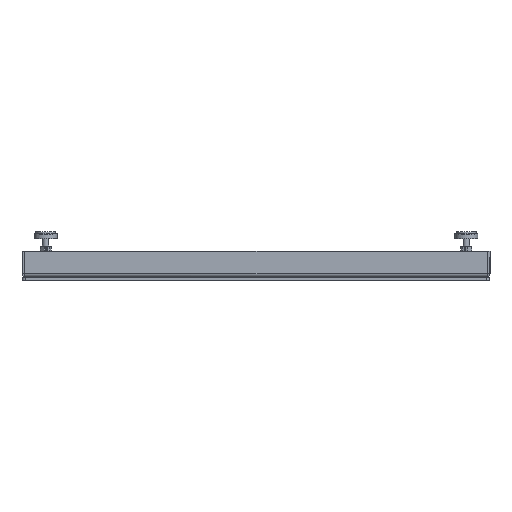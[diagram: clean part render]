
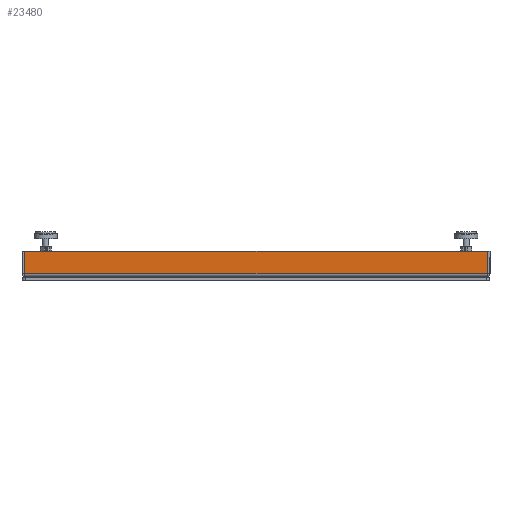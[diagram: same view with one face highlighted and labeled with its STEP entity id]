
A CAD part, left-side view. The second image highlights one B-rep face of the part: STEP entity #23480.
In plain terms, the highlighted planar face has unit normal (-1, 0, 0).
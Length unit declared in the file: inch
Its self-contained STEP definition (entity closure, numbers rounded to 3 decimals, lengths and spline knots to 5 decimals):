
#23 = DIRECTION ( 'NONE',  ( 0., -1., 0. ) ) ;
#52 = CARTESIAN_POINT ( 'NONE',  ( -18., -17.80493, 0.263 ) ) ;
#1763 = DIRECTION ( 'NONE',  ( 0., 1., 0. ) ) ;
#6454 = VECTOR ( 'NONE', #23, 39.37008 ) ;
#7763 = LINE ( 'NONE', #43164, #6454 ) ;
#9864 = CARTESIAN_POINT ( 'NONE',  ( -18., 0., 0. ) ) ;
#10919 = ORIENTED_EDGE ( 'NONE', *, *, #47439, .F. ) ;
#12058 = CARTESIAN_POINT ( 'NONE',  ( -18., 17.80493, 0.263 ) ) ;
#14228 = DIRECTION ( 'NONE',  ( 1., 0., 0. ) ) ;
#14292 = EDGE_CURVE ( 'NONE', #17503, #42101, #7763, .T. ) ;
#14500 = FACE_OUTER_BOUND ( 'NONE', #32746, .T. ) ;
#17503 = VERTEX_POINT ( 'NONE', #26383 ) ;
#18677 = EDGE_CURVE ( 'NONE', #33514, #42101, #48774, .T. ) ;
#19969 = LINE ( 'NONE', #44078, #20152 ) ;
#20152 = VECTOR ( 'NONE', #24114, 39.37008 ) ;
#21277 = DIRECTION ( 'NONE',  ( 0., 0., 1. ) ) ;
#21483 = CARTESIAN_POINT ( 'NONE',  ( -18., -17.80493, 2. ) ) ;
#22729 = PLANE ( 'NONE',  #39715 ) ;
#23480 = ADVANCED_FACE ( 'NONE', ( #14500 ), #22729, .F. ) ;
#24114 = DIRECTION ( 'NONE',  ( 0., 0., 1. ) ) ;
#25454 = LINE ( 'NONE', #37151, #28260 ) ;
#26383 = CARTESIAN_POINT ( 'NONE',  ( -18., 17.80493, 2. ) ) ;
#28260 = VECTOR ( 'NONE', #1763, 39.37008 ) ;
#29352 = ORIENTED_EDGE ( 'NONE', *, *, #18677, .T. ) ;
#32746 = EDGE_LOOP ( 'NONE', ( #10919, #29352, #44896, #50362 ) ) ;
#33236 = CARTESIAN_POINT ( 'NONE',  ( -18., -17.80493, 0. ) ) ;
#33430 = VECTOR ( 'NONE', #21277, 39.37008 ) ;
#33514 = VERTEX_POINT ( 'NONE', #52 ) ;
#37151 = CARTESIAN_POINT ( 'NONE',  ( -18., 18., 0.263 ) ) ;
#38123 = VERTEX_POINT ( 'NONE', #12058 ) ;
#39715 = AXIS2_PLACEMENT_3D ( 'NONE', #9864, #14228, #45560 ) ;
#41982 = EDGE_CURVE ( 'NONE', #38123, #17503, #19969, .T. ) ;
#42101 = VERTEX_POINT ( 'NONE', #21483 ) ;
#43164 = CARTESIAN_POINT ( 'NONE',  ( -18., 18., 2. ) ) ;
#44078 = CARTESIAN_POINT ( 'NONE',  ( -18., 17.80493, 0.188 ) ) ;
#44896 = ORIENTED_EDGE ( 'NONE', *, *, #14292, .F. ) ;
#45560 = DIRECTION ( 'NONE',  ( 0., 0., -1. ) ) ;
#47439 = EDGE_CURVE ( 'NONE', #33514, #38123, #25454, .T. ) ;
#48774 = LINE ( 'NONE', #33236, #33430 ) ;
#50362 = ORIENTED_EDGE ( 'NONE', *, *, #41982, .F. ) ;
